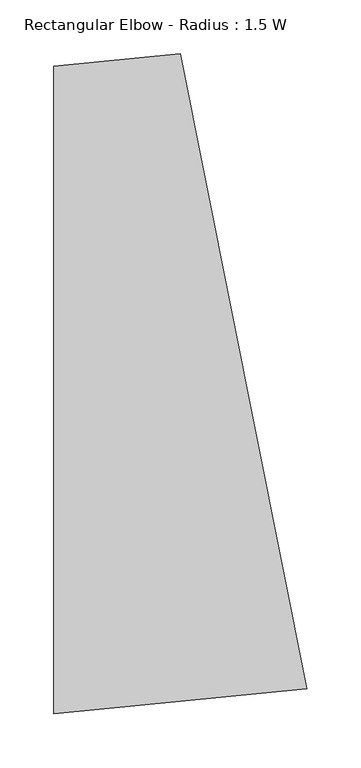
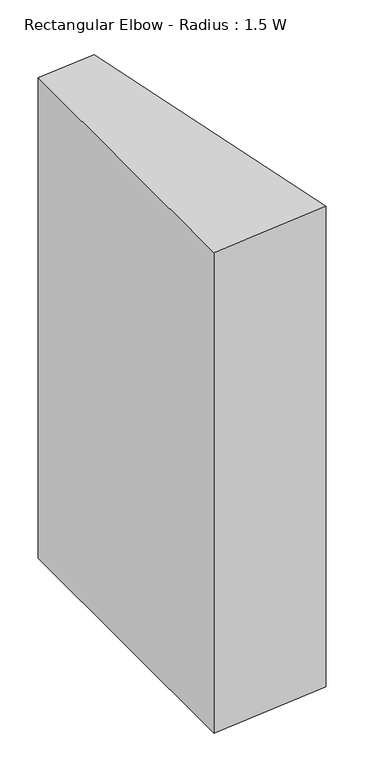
"""IFC4 building model written with IfcOpenShell, lengths in millimetres: duct fitting geometry, Rectangular Elbow - Radius : 1.5 W."""

import ifcopenshell
import ifcopenshell.guid

model = None  # the IFC model being written
_history = None  # IfcOwnerHistory: only IFC2X3 demands one
_inside = {}  # id of a spatial element -> (the spatial element, [elements in it])
_under = {}  # id of a project, library or spatial element -> (it, [spatial elements below it])
_declared = {}  # id of a project -> (the project, [libraries it declares])
_typed = {}  # id of a type object -> (the type object, [elements of that type])
_made_of = {}  # id of a material, layer set ... -> (it, [elements and type objects made of it])


def new_model(schema):
    """Start an empty IFC model of exactly this schema.

    Asked for "IFC4X3", IfcOpenShell would pick the latest addendum, in which some entities
    have other attributes; the version numbers below select the first issue.
    IFC2X3 requires an IfcOwnerHistory on every rooted entity: one is made here for all.
    """
    global model, _history
    if schema == "IFC4X3":
        model = ifcopenshell.file(schema_version=(4, 3, 0, 0))
    else:
        model = ifcopenshell.file(schema=schema)
    _inside.clear()
    _under.clear()
    _declared.clear()
    _typed.clear()
    _made_of.clear()
    _history = None
    if model.schema == "IFC2X3":
        org = make("IfcOrganization", Name="unknown")
        user = make(
            "IfcPersonAndOrganization",
            ThePerson=make("IfcPerson", FamilyName="unknown"),
            TheOrganization=org,
        )
        app = make(
            "IfcApplication",
            ApplicationDeveloper=org,
            Version="unknown",
            ApplicationFullName="unknown",
            ApplicationIdentifier="unknown",
        )
        _history = make(
            "IfcOwnerHistory",
            OwningUser=user,
            OwningApplication=app,
            ChangeAction="ADDED",
            CreationDate=0,
        )
    return model


def make(cls, **values):
    """One entity of the class cls with the attributes given. An attribute that is None is left unset."""
    return model.create_entity(
        cls, **{name: value for name, value in values.items() if value is not None}
    )


def rooted(cls, **values):
    """An entity with a GlobalId (a new one), such as an element, a storey or a relation."""
    return make(cls, GlobalId=ifcopenshell.guid.new(), OwnerHistory=_history, **values)


def si_unit(unit_type, name, prefix=None):
    """IfcSIUnit, for example si_unit("LENGTHUNIT", "METRE", prefix="MILLI")."""
    return make("IfcSIUnit", UnitType=unit_type, Prefix=prefix, Name=name)


def assignment(units):
    """IfcUnitAssignment: the units of a project."""
    return None if units is None else make("IfcUnitAssignment", Units=units)


def point(xyz):
    """IfcCartesianPoint."""
    return None if xyz is None else make("IfcCartesianPoint", Coordinates=xyz)


def direction(xyz):
    """IfcDirection."""
    return None if xyz is None else make("IfcDirection", DirectionRatios=xyz)


def frame(location, z_axis=None, x_axis=None):
    """IfcAxis2Placement3D, a coordinate frame: its origin and axes. An axis left out is left unset."""
    return make(
        "IfcAxis2Placement3D",
        Location=point(location),
        Axis=direction(z_axis),
        RefDirection=direction(x_axis),
    )


def frame_2d(location, x_axis=None):
    """IfcAxis2Placement2D, a coordinate frame in the plane: its origin and x axis."""
    return make(
        "IfcAxis2Placement2D", Location=point(location), RefDirection=direction(x_axis)
    )


def origin():
    """The frame at (0, 0, 0) with its axes left unset."""
    return frame((0.0, 0.0, 0.0))


def place(relative_to, where):
    """IfcLocalPlacement: puts the frame where relative to a parent placement (None: the world)."""
    return make(
        "IfcLocalPlacement", PlacementRelTo=relative_to, RelativePlacement=where
    )


def context(
    kind, dimensions, precision=None, world=None, true_north=None, identifier=None
):
    """IfcGeometricRepresentationContext, for example the 3D "Model" context."""
    return make(
        "IfcGeometricRepresentationContext",
        ContextIdentifier=identifier,
        ContextType=kind,
        CoordinateSpaceDimension=dimensions,
        Precision=precision,
        WorldCoordinateSystem=world,
        TrueNorth=true_north,
    )


def project(units=None, contexts=None):
    """IfcProject with its units and contexts."""
    return rooted(
        "IfcProject",
        Name="project",
        RepresentationContexts=contexts,
        UnitsInContext=assignment(units),
    )


def spatial(cls, under=None, at=None, **own):
    """A site, building, storey or space (cls), placed at a placement, below another one or the project."""
    s = rooted(cls, ObjectPlacement=at, **own)
    if under is not None:
        _under.setdefault(under.id(), (under, []))[1].append(s)
    return s


def polyline(points):
    """IfcPolyline through the points."""
    return make("IfcPolyline", Points=[point(p) for p in points])


def circle_curve(where, radius):
    """IfcCircle in the frame where."""
    return make("IfcCircle", Position=where, Radius=radius)


def trimmed(basis, trim1, trim2, sense, master):
    """IfcTrimmedCurve: the piece of a basis curve between two trims."""
    return make(
        "IfcTrimmedCurve",
        BasisCurve=basis,
        Trim1=trim1,
        Trim2=trim2,
        SenseAgreement=sense,
        MasterRepresentation=master,
    )


def segment(curve, same_sense, transition):
    """IfcCompositeCurveSegment."""
    return make(
        "IfcCompositeCurveSegment",
        Transition=transition,
        SameSense=same_sense,
        ParentCurve=curve,
    )


def composite_curve(segments, self_intersect=None):
    """IfcCompositeCurve: segments joined end to end."""
    return make("IfcCompositeCurve", Segments=segments, SelfIntersect=self_intersect)


def outline(outer, holes=None, kind="AREA"):
    """IfcArbitraryClosedProfileDef: a profile drawn as a closed curve; with holes, ...WithVoids."""
    if holes is None:
        return make("IfcArbitraryClosedProfileDef", ProfileType=kind, OuterCurve=outer)
    return make(
        "IfcArbitraryProfileDefWithVoids",
        ProfileType=kind,
        OuterCurve=outer,
        InnerCurves=holes,
    )


def extrude(swept, where, along, depth):
    """IfcExtrudedAreaSolid: the profile swept, set in the frame where, extruded along a direction by depth."""
    return make(
        "IfcExtrudedAreaSolid",
        SweptArea=swept,
        Position=where,
        ExtrudedDirection=direction(along),
        Depth=depth,
    )


def shape(context_of_items, identifier, shape_type, items):
    """IfcShapeRepresentation: the items that make up one representation, for example the "Body"."""
    return make(
        "IfcShapeRepresentation",
        ContextOfItems=context_of_items,
        RepresentationIdentifier=identifier,
        RepresentationType=shape_type,
        Items=items,
    )


def source(mapping_origin, context_of_items, identifier, shape_type, items):
    """IfcRepresentationMap: a shape defined once, which mapped items show again and again."""
    return make(
        "IfcRepresentationMap",
        MappingOrigin=mapping_origin,
        MappedRepresentation=shape(context_of_items, identifier, shape_type, items),
    )


def transform(
    local_origin,
    x_axis=None,
    y_axis=None,
    z_axis=None,
    scale=None,
    scale2=None,
    scale3=None,
    uniform=True,
):
    """IfcCartesianTransformationOperator3D, or its non-uniform kind. x_axis, y_axis, z_axis: its Axis1, 2, 3."""
    if uniform:
        return make(
            "IfcCartesianTransformationOperator3D",
            Axis1=direction(x_axis),
            Axis2=direction(y_axis),
            LocalOrigin=point(local_origin),
            Scale=scale,
            Axis3=direction(z_axis),
        )
    return make(
        "IfcCartesianTransformationOperator3DnonUniform",
        Axis1=direction(x_axis),
        Axis2=direction(y_axis),
        LocalOrigin=point(local_origin),
        Scale=scale,
        Axis3=direction(z_axis),
        Scale2=scale2,
        Scale3=scale3,
    )


def mapped(mapping_source, mapping_target):
    """IfcMappedItem: shows the shape of a source again, moved by a transform."""
    return make(
        "IfcMappedItem", MappingSource=mapping_source, MappingTarget=mapping_target
    )


def made_of(thing, what):
    """Note that an element or type object is made of a material, layer set ...; save() writes the relation."""
    if what is not None:
        _made_of.setdefault(what.id(), (what, []))[1].append(thing)
    return thing


def element(
    cls,
    number,
    at=None,
    inside=None,
    cuts=None,
    type_object=None,
    material=None,
    context=None,
    identifier="Body",
    shape_type=None,
    held_by="IfcProductDefinitionShape",
    body=None,
    shapes=None,
    **own,
):
    """One element of the class cls, such as IfcWall. Its Tag is "e" and its number.

    at: its placement. inside: the storey or other place that contains it. cuts: it is an
    opening in that element (IfcRelVoidsElement). A single representation is given by context,
    identifier, shape_type and body (its items); several are given by shapes. held_by: the class
    of the entity that holds the representations. save() writes the other relations.
    """
    e = rooted(cls, Tag="e%d" % number, ObjectPlacement=at, **own)
    if body is not None:
        shapes = [shape(context, identifier, shape_type, body)]
    if shapes is not None:
        e.Representation = make(held_by, Representations=shapes)
    if inside is not None:
        _inside.setdefault(inside.id(), (inside, []))[1].append(e)
    if cuts is not None:
        rooted(
            "IfcRelVoidsElement", RelatingBuildingElement=cuts, RelatedOpeningElement=e
        )
    if type_object is not None:
        _typed.setdefault(type_object.id(), (type_object, []))[1].append(e)
    return made_of(e, material)


def aggregate(whole, parts):
    """IfcRelAggregates: a whole, such as a stair, and the parts it consists of."""
    return rooted("IfcRelAggregates", RelatingObject=whole, RelatedObjects=parts)


def save(model, path):
    """Write the relations noted so far, then the file.

    IfcRelAggregates (storeys below a building ...), IfcRelContainedInSpatialStructure (elements
    in a storey), IfcRelDefinesByType, IfcRelAssociatesMaterial and IfcRelDeclares: one each for
    every whole, place, type object, material and project.
    """
    for whole, parts in _under.values():
        aggregate(whole, parts)
    for where, things in _inside.values():
        rooted(
            "IfcRelContainedInSpatialStructure",
            RelatedElements=things,
            RelatingStructure=where,
        )
    for kind, things in _typed.values():
        rooted("IfcRelDefinesByType", RelatedObjects=things, RelatingType=kind)
    for what, things in _made_of.values():
        rooted("IfcRelAssociatesMaterial", RelatedObjects=things, RelatingMaterial=what)
    for by, libraries in _declared.values():
        rooted("IfcRelDeclares", RelatingContext=by, RelatedDefinitions=libraries)
    model.write(path)


def rectangular_elbow_radius_1_5_w_4260a3d3(model_context):
    return source(origin(), model_context, "Body", "SweptSolid", [
        extrude(outline(composite_curve([segment(trimmed(circle_curve(frame_2d((-88.6422996, 900.0)), 1200.0), [point((145.4661816, -276.9423176))], [point((-88.6422996, -300.0))], False, "CARTESIAN"), True, "CONTINUOUS"), segment(polyline([(-88.6422996, -300.0), (-88.6422996, 300.0)]), True, "CONTINUOUS"), segment(trimmed(circle_curve(frame_2d((-88.6422996, 900.0)), 600.0), [point((-88.6422996, 300.0))], [point((28.411941, 311.5288412))], True, "CARTESIAN"), True, "CONTINUOUS"), segment(polyline([(28.411941, 311.5288412), (145.4661816, -276.9423176)]), True, "CONTINUOUS")], self_intersect=False)), frame((0.0, 0.0, -500.0), z_axis=(0.0, 0.0, 1.0), x_axis=(1.0, 0.0, 0.0)), (0.0, 0.0, 1.0), 1000.0),
    ])


if __name__ == "__main__":
    model = new_model("IFC4")
    model_context = context("Model", 3, world=origin())
    ifc_project = project(units=[si_unit("LENGTHUNIT", "METRE", prefix="MILLI")], contexts=[model_context])
    site = spatial("IfcSite", under=ifc_project)
    building = spatial("IfcBuilding", under=site)
    placement = place(None, origin())
    rectangular_elbow_radius_1_5_w_shape = rectangular_elbow_radius_1_5_w_4260a3d3(model_context)
    element("IfcDuctFitting", 1, ObjectType="Rectangular Elbow - Radius : 1.5 W", at=placement, inside=building, context=model_context, shape_type="MappedRepresentation", body=[
        mapped(rectangular_elbow_radius_1_5_w_shape, transform((0.0, 0.0, 0.0), x_axis=(1.0, 0.0, 0.0), y_axis=(0.0, 1.0, 0.0), z_axis=(0.0, 0.0, 1.0))),
    ])
    save(model, "model.ifc")
